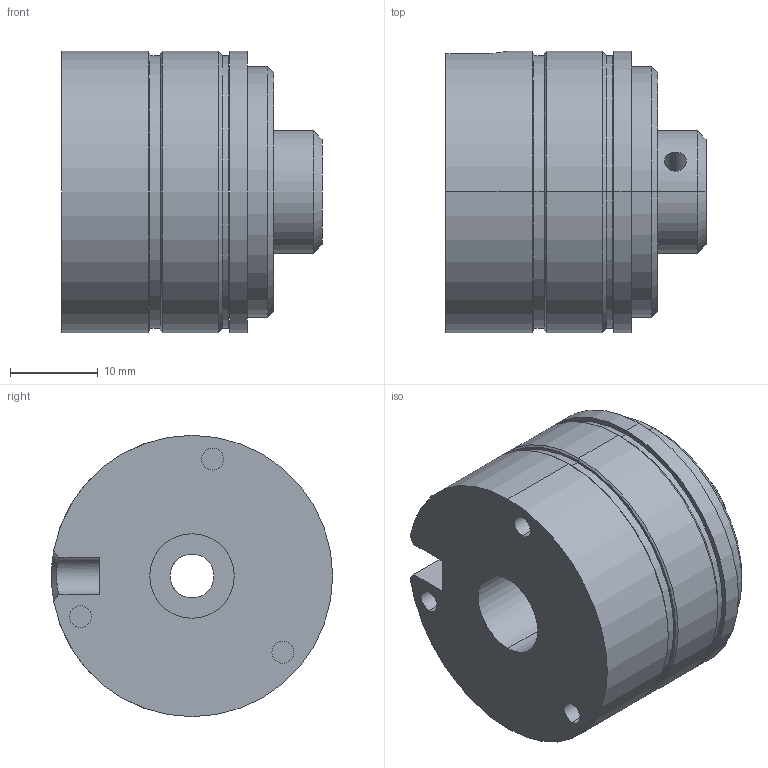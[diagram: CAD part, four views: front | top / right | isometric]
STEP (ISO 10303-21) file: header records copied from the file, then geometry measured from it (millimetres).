
FILE_DESCRIPTION (( 'STEP AP214' ), '1' );
FILE_NAME ('86_61103K00_Bohrung Ø5H7 .STEP', '2019-05-17T07:48:09', ( '' ), ( '' ), 'SwSTEP 2.0', 'SolidWorks 2018', '' );
FILE_SCHEMA (( 'AUTOMOTIVE_DESIGN' ));
Length unit declared in the file: millimetre
Products named in the file (1): 86_61103K00_Bohrung Ø5H7 
Bounding box: 29.6 x 32 x 32 mm (x, y, z)
Volume: 17364.2 mm3; surface area: 6611.8 mm2
Topology: 2 solids, 2 shells, 66 faces, 143 edges, 88 vertices
Faces by surface type: cylinder 33, plane 18, cone 14, bspline 1
Entity records: 2477 total; most frequent: CARTESIAN_POINT 832, DIRECTION 333, ORIENTED_EDGE 286, EDGE_CURVE 143, AXIS2_PLACEMENT_3D 136, VERTEX_POINT 88, EDGE_LOOP 81, CIRCLE 70
